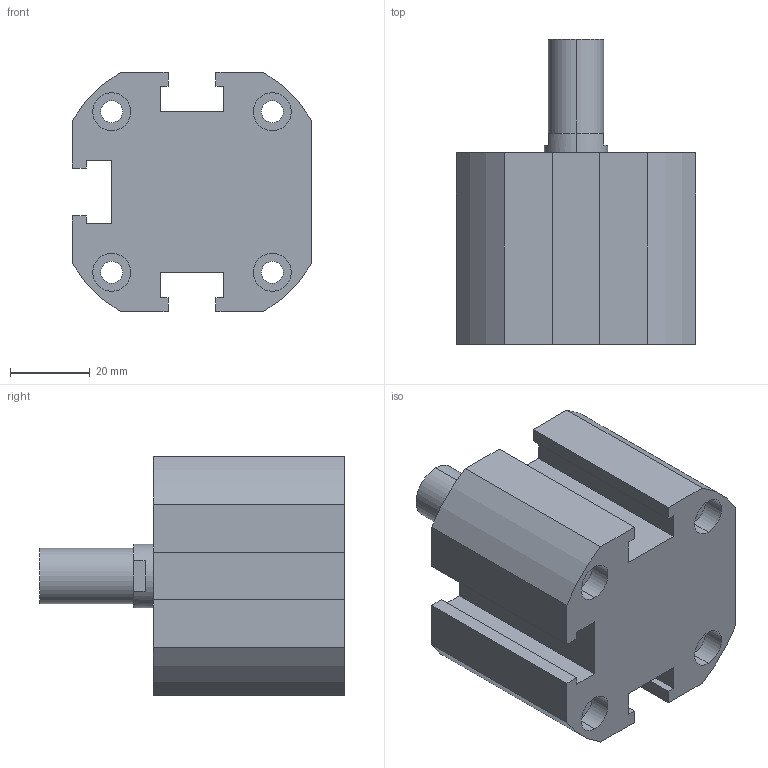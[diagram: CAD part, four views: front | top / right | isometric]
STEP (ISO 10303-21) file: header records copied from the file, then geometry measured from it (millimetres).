
FILE_DESCRIPTION (( 'STEP AP203' ), '1' );
FILE_NAME ('XG#M1-40D-10.STEP', '2016-05-24T02:09:01', ( '' ), ( '' ), 'SwSTEP 2.0', 'SolidWorks 2014', '' );
FILE_SCHEMA (( 'CONFIG_CONTROL_DESIGN' ));
Length unit declared in the file: millimetre
Products named in the file (1): XG#M1-40D-10
Bounding box: 60 x 76.5 x 60 mm (x, y, z)
Volume: 136976.3 mm3; surface area: 25786.3 mm2
Topology: 1 solids, 1 shells, 107 faces, 267 edges, 175 vertices
Faces by surface type: cylinder 52, plane 51, cone 4
Entity records: 3306 total; most frequent: DIRECTION 595, CARTESIAN_POINT 548, ORIENTED_EDGE 530, EDGE_CURVE 265, AXIS2_PLACEMENT_3D 222, VERTEX_POINT 175, LINE 151, VECTOR 151
